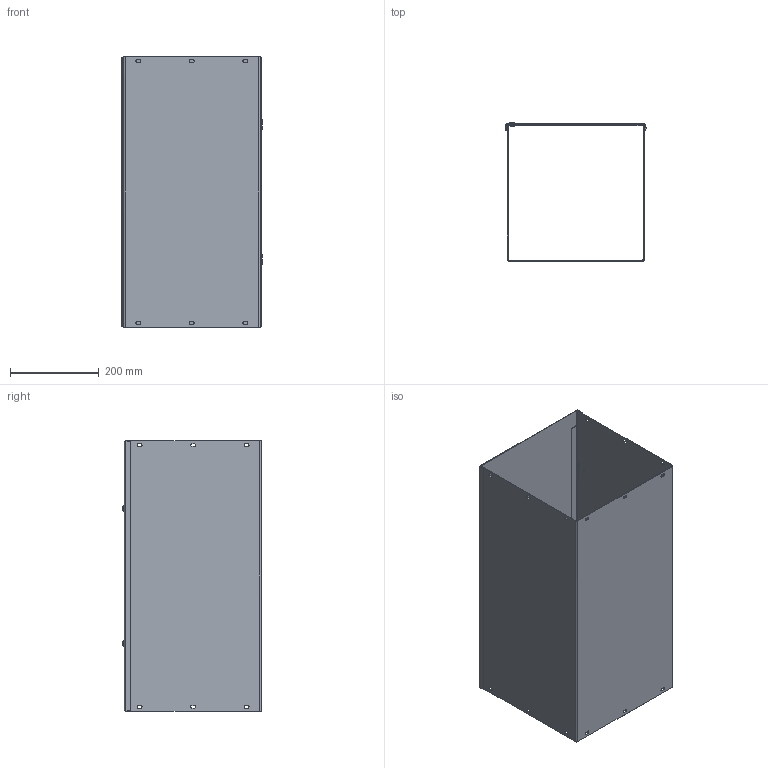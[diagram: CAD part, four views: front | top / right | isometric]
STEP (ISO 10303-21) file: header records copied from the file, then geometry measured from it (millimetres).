
FILE_DESCRIPTION((''),'2;1');
FILE_NAME('D:\scratch\ideas\f1212g24h.stp','2006-11-22T08:43:41',( 'User'),('SDRC'),'I-DEAS Master Series 9','UNIX','Yes');
FILE_SCHEMA(('AUTOMOTIVE_DESIGN { 1 0 10303 214 0 1 1 1 }'));
Length unit declared in the file: inch
Products named in the file (3): 16743; ww_cvr_12x24; ww_body_12x12x24
Assembly tree (2 placements, depth 2):
  16743
    ww_cvr_12x24
    ww_body_12x12x24
Bounding box: 317.51 x 311.76 x 609.6 mm (x, y, z)
Volume: 1426666 mm3; surface area: 1570926.3 mm2
Topology: 2 solids, 2 shells, 180 faces, 494 edges, 324 vertices
Faces by surface type: bspline 180
Entity records: 6100 total; most frequent: CARTESIAN_POINT 2978, ORIENTED_EDGE 988, EDGE_CURVE 494, VERTEX_POINT 324, QUASI_UNIFORM_CURVE 302, EDGE_LOOP 242, FACE_OUTER_BOUND 180, ADVANCED_FACE 180
